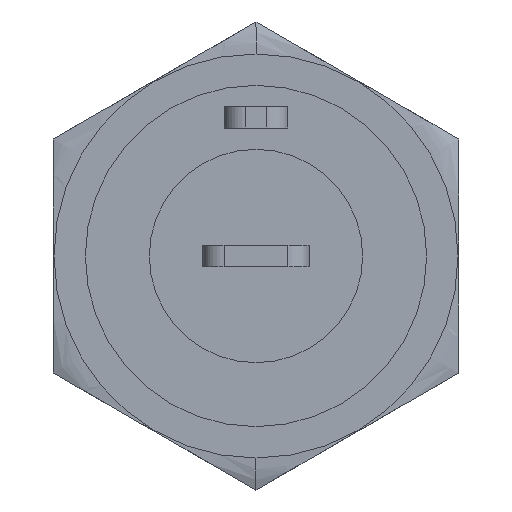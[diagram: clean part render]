
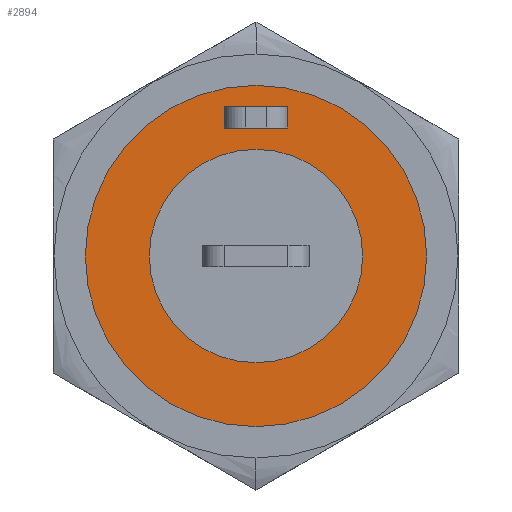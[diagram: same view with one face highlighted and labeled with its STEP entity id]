
A CAD part, front view. The second image highlights one B-rep face of the part: STEP entity #2894.
In plain terms, the highlighted planar face has unit normal (0, -1, 0).
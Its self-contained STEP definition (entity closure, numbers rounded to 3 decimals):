
#303 = VERTEX_POINT ( 'NONE', #636 ) ;
#312 = VERTEX_POINT ( 'NONE', #629 ) ;
#342 = VERTEX_POINT ( 'NONE', #2043 ) ;
#343 = VERTEX_POINT ( 'NONE', #2054 ) ;
#361 = VERTEX_POINT ( 'NONE', #2067 ) ;
#363 = VERTEX_POINT ( 'NONE', #2061 ) ;
#390 = VERTEX_POINT ( 'NONE', #2089 ) ;
#403 = VERTEX_POINT ( 'NONE', #2579 ) ;
#475 = ORIENTED_EDGE ( 'NONE', *, *, #1835, .T. ) ;
#476 = ORIENTED_EDGE ( 'NONE', *, *, #1962, .T. ) ;
#477 = ORIENTED_EDGE ( 'NONE', *, *, #1841, .F. ) ;
#478 = ORIENTED_EDGE ( 'NONE', *, *, #1963, .F. ) ;
#479 = ORIENTED_EDGE ( 'NONE', *, *, #1961, .F. ) ;
#480 = ORIENTED_EDGE ( 'NONE', *, *, #1960, .F. ) ;
#481 = ORIENTED_EDGE ( 'NONE', *, *, #1958, .F. ) ;
#482 = ORIENTED_EDGE ( 'NONE', *, *, #1955, .F. ) ;
#558 = CIRCLE ( 'NONE', #1999, 5. ) ;
#569 = CIRCLE ( 'NONE', #2002, 8. ) ;
#629 = CARTESIAN_POINT ( 'NONE',  ( 1.5, 15.5, 7. ) ) ;
#636 = CARTESIAN_POINT ( 'NONE',  ( 5., 15.5, 0. ) ) ;
#839 = LINE ( 'NONE', #2775, #842 ) ;
#842 = VECTOR ( 'NONE', #2776, 1000. ) ;
#845 = LINE ( 'NONE', #2781, #848 ) ;
#848 = VECTOR ( 'NONE', #2782, 1000. ) ;
#849 = LINE ( 'NONE', #2785, #852 ) ;
#851 = LINE ( 'NONE', #2787, #854 ) ;
#852 = VECTOR ( 'NONE', #2786, 1000. ) ;
#853 = CIRCLE ( 'NONE', #1365, 5. ) ;
#854 = VECTOR ( 'NONE', #2788, 1000. ) ;
#855 = CIRCLE ( 'NONE', #1475, 8. ) ;
#997 = FACE_BOUND ( 'NONE', #1745, .T. ) ;
#998 = FACE_BOUND ( 'NONE', #1727, .T. ) ;
#1001 = FACE_OUTER_BOUND ( 'NONE', #1748, .T. ) ;
#1365 = AXIS2_PLACEMENT_3D ( 'NONE', #2790, #2791, #2792 ) ;
#1456 = AXIS2_PLACEMENT_3D ( 'NONE', #2397, #2386, #2399 ) ;
#1475 = AXIS2_PLACEMENT_3D ( 'NONE', #2794, #2795, #2796 ) ;
#1665 = CARTESIAN_POINT ( 'NONE',  ( 0., 15.5, 0. ) ) ;
#1666 = DIRECTION ( 'NONE',  ( 0., 1., 0. ) ) ;
#1667 = DIRECTION ( 'NONE',  ( -1., 0., 0. ) ) ;
#1679 = CARTESIAN_POINT ( 'NONE',  ( 0., 15.5, 0. ) ) ;
#1680 = DIRECTION ( 'NONE',  ( 0., 1., 0. ) ) ;
#1681 = DIRECTION ( 'NONE',  ( -1., 0., 0. ) ) ;
#1727 = EDGE_LOOP ( 'NONE', ( #479, #480, #481, #482 ) ) ;
#1745 = EDGE_LOOP ( 'NONE', ( #475, #476 ) ) ;
#1748 = EDGE_LOOP ( 'NONE', ( #477, #478 ) ) ;
#1835 = EDGE_CURVE ( 'NONE', #361, #303, #558, .T. ) ;
#1841 = EDGE_CURVE ( 'NONE', #363, #403, #569, .T. ) ;
#1955 = EDGE_CURVE ( 'NONE', #343, #342, #839, .T. ) ;
#1958 = EDGE_CURVE ( 'NONE', #342, #312, #845, .T. ) ;
#1960 = EDGE_CURVE ( 'NONE', #312, #390, #849, .T. ) ;
#1961 = EDGE_CURVE ( 'NONE', #390, #343, #851, .T. ) ;
#1962 = EDGE_CURVE ( 'NONE', #303, #361, #853, .T. ) ;
#1963 = EDGE_CURVE ( 'NONE', #403, #363, #855, .T. ) ;
#1999 = AXIS2_PLACEMENT_3D ( 'NONE', #1665, #1666, #1667 ) ;
#2002 = AXIS2_PLACEMENT_3D ( 'NONE', #1679, #1680, #1681 ) ;
#2043 = CARTESIAN_POINT ( 'NONE',  ( 1.5, 15.5, 6. ) ) ;
#2054 = CARTESIAN_POINT ( 'NONE',  ( -1.5, 15.5, 6. ) ) ;
#2061 = CARTESIAN_POINT ( 'NONE',  ( -8., 15.5, 0. ) ) ;
#2067 = CARTESIAN_POINT ( 'NONE',  ( -5., 15.5, 0. ) ) ;
#2089 = CARTESIAN_POINT ( 'NONE',  ( -1.5, 15.5, 7. ) ) ;
#2386 = DIRECTION ( 'NONE',  ( 0., 1., 0. ) ) ;
#2397 = CARTESIAN_POINT ( 'NONE',  ( 5., 15.5, 0. ) ) ;
#2398 = PLANE ( 'NONE',  #1456 ) ;
#2399 = DIRECTION ( 'NONE',  ( -1., 0., 0. ) ) ;
#2579 = CARTESIAN_POINT ( 'NONE',  ( 8., 15.5, 0. ) ) ;
#2775 = CARTESIAN_POINT ( 'NONE',  ( -1.5, 15.5, 6. ) ) ;
#2776 = DIRECTION ( 'NONE',  ( 1., 0., 0. ) ) ;
#2781 = CARTESIAN_POINT ( 'NONE',  ( 1.5, 15.5, 6. ) ) ;
#2782 = DIRECTION ( 'NONE',  ( 0., 0., 1. ) ) ;
#2785 = CARTESIAN_POINT ( 'NONE',  ( -1.5, 15.5, 7. ) ) ;
#2786 = DIRECTION ( 'NONE',  ( -1., 0., 0. ) ) ;
#2787 = CARTESIAN_POINT ( 'NONE',  ( -1.5, 15.5, 6. ) ) ;
#2788 = DIRECTION ( 'NONE',  ( 0., 0., -1. ) ) ;
#2790 = CARTESIAN_POINT ( 'NONE',  ( 0., 15.5, 0. ) ) ;
#2791 = DIRECTION ( 'NONE',  ( 0., 1., 0. ) ) ;
#2792 = DIRECTION ( 'NONE',  ( -1., 0., 0. ) ) ;
#2794 = CARTESIAN_POINT ( 'NONE',  ( 0., 15.5, 0. ) ) ;
#2795 = DIRECTION ( 'NONE',  ( 0., 1., 0. ) ) ;
#2796 = DIRECTION ( 'NONE',  ( -1., 0., 0. ) ) ;
#2894 = ADVANCED_FACE ( 'NONE', ( #997, #1001, #998 ), #2398, .F. ) ;
